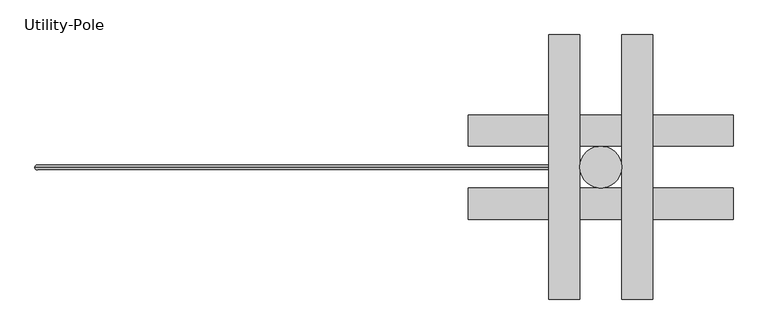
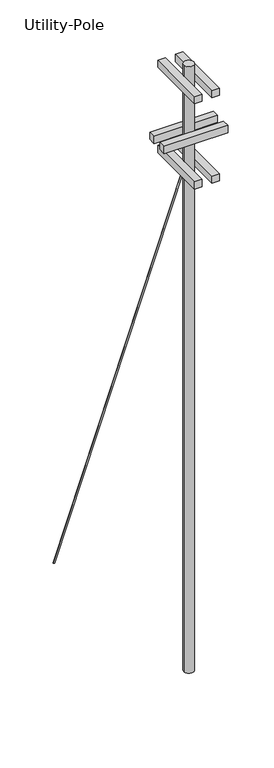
"""IFC4 building model written with IfcOpenShell, lengths in millimetres: geographic element geometry, Utility-Pole : All-Utilities."""

from ifc_helpers import new_model, si_unit, point, frame, frame_2d, origin, origin_2d, place, context, project, spatial, polyline, circle_curve, trimmed, segment, composite_curve, outline, extrude, source, transform, mapped, element, save


def utility_pole_e77af8a2(model_context):
    return source(origin(), model_context, "Body", "SweptSolid", [
        extrude(outline(composite_curve([segment(trimmed(circle_curve(frame_2d((0.0, -2.0503746)), 101.6), [point((-101.6, -2.0503746))], [point((101.6, -2.0503746))], False, "CARTESIAN"), True, "CONTINUOUS"), segment(trimmed(circle_curve(frame_2d((0.0, -2.0503746)), 101.6), [point((101.6, -2.0503746))], [point((-101.6, -2.0503746))], False, "CARTESIAN"), True, "CONTINUOUS")], self_intersect=False)), frame((0.0, 0.0, -3251.2), z_axis=(0.0, 0.0, 1.0), x_axis=(1.0, 0.0, 0.0)), (0.0, 0.0, 1.0), 13004.8),
        extrude(outline(polyline([(-101.6, -646.755116), (-254.0, -646.755116), (-254.0, 642.6543668), (-101.6, 642.6543668), (-101.6, -646.755116)])), frame((0.0, 0.0, 9372.6), z_axis=(0.0, 0.0, 1.0), x_axis=(1.0, 0.0, 0.0)), (0.0, 0.0, 1.0), 152.4),
        extrude(outline(polyline([(254.0, -646.755116), (101.6, -646.755116), (101.6, 642.6543668), (254.0, 642.6543668), (254.0, -646.755116)])), frame((0.0, 0.0, 9372.6), z_axis=(0.0, 0.0, 1.0), x_axis=(1.0, 0.0, 0.0)), (0.0, 0.0, 1.0), 152.4),
        extrude(outline(polyline([(-101.6, -646.755116), (-254.0, -646.755116), (-254.0, 642.6543668), (-101.6, 642.6543668), (-101.6, -646.755116)])), frame((0.0, 0.0, 7543.8), z_axis=(0.0, 0.0, 1.0), x_axis=(1.0, 0.0, 0.0)), (0.0, 0.0, 1.0), 152.4),
        extrude(outline(polyline([(254.0, -646.755116), (101.6, -646.755116), (101.6, 642.6543668), (254.0, 642.6543668), (254.0, -646.755116)])), frame((0.0, 0.0, 7543.8), z_axis=(0.0, 0.0, 1.0), x_axis=(1.0, 0.0, 0.0)), (0.0, 0.0, 1.0), 152.4),
        extrude(outline(polyline([(-644.7047414, 99.5496254), (-644.7047414, 251.9496254), (644.7047414, 251.9496254), (644.7047414, 99.5496254), (-644.7047414, 99.5496254)])), frame((0.0, 0.0, 8204.2), z_axis=(0.0, 0.0, 1.0), x_axis=(1.0, 0.0, 0.0)), (0.0, 0.0, 1.0), 152.4),
        extrude(outline(polyline([(-644.7047414, -256.0503746), (-644.7047414, -103.6503746), (644.7047414, -103.6503746), (644.7047414, -256.0503746), (-644.7047414, -256.0503746)])), frame((0.0, 0.0, 8204.2), z_axis=(0.0, 0.0, 1.0), x_axis=(1.0, 0.0, 0.0)), (0.0, 0.0, 1.0), 152.4),
        extrude(outline(composite_curve([segment(trimmed(circle_curve(origin_2d(), 12.7), [point((0.0, -12.7))], [point((0.0, 12.7))], False, "CARTESIAN"), True, "CONTINUOUS"), segment(trimmed(circle_curve(origin_2d(), 12.7), [point((0.0, 12.7))], [point((0.0, -12.7))], False, "CARTESIAN"), True, "CONTINUOUS")], self_intersect=False)), frame((-2743.2, -2.0503746, 0.0), z_axis=(0.3304919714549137, 0.0, 0.9438088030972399), x_axis=(0.0, -1.0, 0.0)), (0.0, 0.0, 1.0), 7992.9324406),
    ])


if __name__ == "__main__":
    model = new_model("IFC4")
    model_context = context("Model", 3, world=origin())
    ifc_project = project(units=[si_unit("LENGTHUNIT", "METRE", prefix="MILLI")], contexts=[model_context])
    site = spatial("IfcSite", under=ifc_project)
    building = spatial("IfcBuilding", under=site)
    placement = place(None, origin())
    utility_pole_shape = utility_pole_e77af8a2(model_context)
    element("IfcGeographicElement", 1, ObjectType="Utility-Pole : All-Utilities", at=placement, inside=building, context=model_context, shape_type="MappedRepresentation", body=[
        mapped(utility_pole_shape, transform((0.0, 0.0, 0.0), x_axis=(1.0, 0.0, 0.0), y_axis=(0.0, 1.0, 0.0), z_axis=(0.0, 0.0, 1.0))),
    ])
    save(model, "model.ifc")
